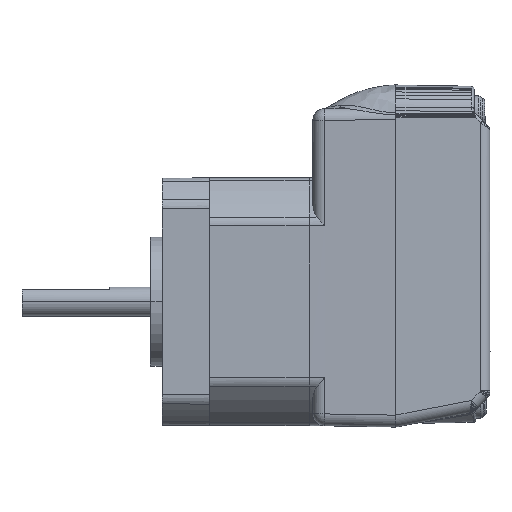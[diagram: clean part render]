
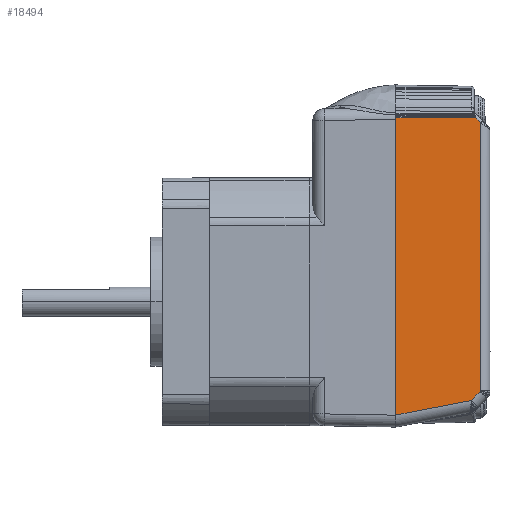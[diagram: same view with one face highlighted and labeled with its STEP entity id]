
A CAD part, left-side view. The second image highlights one B-rep face of the part: STEP entity #18494.
In plain terms, the highlighted planar face has unit normal (-1, -0.018, 0).
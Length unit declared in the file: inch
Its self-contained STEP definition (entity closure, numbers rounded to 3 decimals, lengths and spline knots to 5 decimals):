
#6873=VERTEX_POINT('',#21038);
#7577=VERTEX_POINT('NONE',#21823);
#8115=VERTEX_POINT('',#22415);
#8562=EDGE_CURVE('NONE',#14649,#9836,#22898,.T.);
#9836=VERTEX_POINT('',#24285);
#10113=VERTEX_POINT('NONE',#24581);
#10133=VERTEX_POINT('NONE',#24604);
#12311=EDGE_CURVE('NONE',#17334,#18828,#26992,.F.);
#12629=VERTEX_POINT('',#27339);
#12722=EDGE_CURVE('NONE',#10113,#7577,#27444,.F.);
#13508=EDGE_CURVE('NONE',#10113,#6873,#28296,.T.);
#14649=VERTEX_POINT('NONE',#29536);
#14736=EDGE_CURVE('',#6873,#18828,#29632,.F.);
#16072=EDGE_CURVE('NONE',#9836,#12629,#31092,.T.);
#17320=EDGE_CURVE('NONE',#10133,#7577,#32460,.T.);
#17334=VERTEX_POINT('NONE',#32476);
#17401=EDGE_CURVE('NONE',#12629,#8115,#32548,.T.);
#17627=EDGE_CURVE('NONE',#17334,#14649,#32796,.T.);
#18494=ADVANCED_FACE('MDrive17 Plus[9]',(#33740),#33741,.T.);
#18828=VERTEX_POINT('',#34111);
#19976=EDGE_CURVE('NONE',#8115,#10133,#35358,.T.);
#21038=CARTESIAN_POINT('',(-1.69475,0.9932,1.18117));
#21823=CARTESIAN_POINT('',(-1.68485,0.42614,1.14831));
#22415=CARTESIAN_POINT('',(-1.68486,0.42623,-0.65256));
#22898=B_SPLINE_CURVE_WITH_KNOTS('',3,(#45717,#45718,#45719,#45720),.UNSPECIFIED.,.F.,.F.,(4,4),(0.0,1.0),.UNSPECIFIED.);
#24285=CARTESIAN_POINT('',(-1.68487,0.42698,-0.65437));
#24581=CARTESIAN_POINT('',(-1.68542,0.45843,1.18117));
#24604=CARTESIAN_POINT('',(-1.68485,0.42614,-0.65159));
#26992=LINE('',#64287,#64288);
#27339=CARTESIAN_POINT('',(-1.68487,0.42651,-0.6535));
#27444=LINE('',#66215,#66216);
#28296=B_SPLINE_CURVE_WITH_KNOTS('',3,(#70966,#70967,#70968,#70969,#70970,#70971,#70972),.UNSPECIFIED.,.F.,.F.,(4,3,4),(0.0,0.99951,0.99975),.UNSPECIFIED.);
#29536=CARTESIAN_POINT('',(-1.68488,0.4276,-0.65511));
#29632=LINE('',#76239,#76240);
#31092=B_SPLINE_CURVE_WITH_KNOTS('',3,(#82328,#82329,#82330,#82331),.UNSPECIFIED.,.F.,.F.,(4,4),(0.0,1.0),.UNSPECIFIED.);
#32460=LINE('',#87602,#87603);
#32476=CARTESIAN_POINT('',(-1.68593,0.48772,-0.71523));
#32548=B_SPLINE_CURVE_WITH_KNOTS('',3,(#88005,#88006,#88007,#88008),.UNSPECIFIED.,.F.,.F.,(4,4),(0.0,1.0),.UNSPECIFIED.);
#32796=LINE('',#88803,#88804);
#33740=FACE_OUTER_BOUND('',#92441,.T.);
#33741=PLANE('',#92442);
#34111=CARTESIAN_POINT('',(-1.69475,0.9932,-0.81292));
#35358=B_SPLINE_CURVE_WITH_KNOTS('',3,(#98595,#98596,#98597,#98598),.UNSPECIFIED.,.F.,.F.,(4,4),(0.0,1.0),.UNSPECIFIED.);
#45717=CARTESIAN_POINT('',(-1.68487,0.4276,-0.65512));
#45718=CARTESIAN_POINT('',(-1.68486,0.42664,-0.65414));
#45719=CARTESIAN_POINT('',(-1.68485,0.42615,-0.65296));
#45720=CARTESIAN_POINT('',(-1.68485,0.42613,-0.65159));
#64287=CARTESIAN_POINT('',(-1.69505,1.01049,-0.81626));
#64288=VECTOR('',#106609,1.0);
#66215=CARTESIAN_POINT('',(-1.68485,0.42613,1.14829));
#66216=VECTOR('',#106974,1.0);
#70966=CARTESIAN_POINT('',(-1.68541,0.45844,1.18117));
#70967=CARTESIAN_POINT('',(-1.68852,0.63665,1.18117));
#70968=CARTESIAN_POINT('',(-1.69163,0.81486,1.18117));
#70969=CARTESIAN_POINT('',(-1.69474,0.99307,1.18117));
#70970=CARTESIAN_POINT('',(-1.69475,0.99312,1.18117));
#70971=CARTESIAN_POINT('',(-1.69475,0.99316,1.18117));
#70972=CARTESIAN_POINT('',(-1.69475,0.9932,1.18117));
#76239=CARTESIAN_POINT('',(-1.69475,0.9932,-0.57856));
#76240=VECTOR('',#108586,1.0);
#82328=CARTESIAN_POINT('',(-1.68487,0.4276,-0.65512));
#82329=CARTESIAN_POINT('',(-1.68486,0.42664,-0.65414));
#82330=CARTESIAN_POINT('',(-1.68485,0.42615,-0.65296));
#82331=CARTESIAN_POINT('',(-1.68485,0.42613,-0.65159));
#87602=CARTESIAN_POINT('',(-1.68485,0.42614,-0.65159));
#87603=VECTOR('',#110831,1.0);
#88005=CARTESIAN_POINT('',(-1.68487,0.4276,-0.65512));
#88006=CARTESIAN_POINT('',(-1.68486,0.42664,-0.65414));
#88007=CARTESIAN_POINT('',(-1.68485,0.42615,-0.65296));
#88008=CARTESIAN_POINT('',(-1.68485,0.42613,-0.65159));
#88803=CARTESIAN_POINT('',(-1.68593,0.48771,-0.71522));
#88804=VECTOR('',#111100,1.);
#92441=EDGE_LOOP('',(#111832,#111833,#111834,#111835,#111836,#111837,#111838,#111839,#111840,#111841));
#92442=AXIS2_PLACEMENT_3D('',#111842,#111843,#111844);
#98595=CARTESIAN_POINT('',(-1.68487,0.4276,-0.65512));
#98596=CARTESIAN_POINT('',(-1.68486,0.42664,-0.65414));
#98597=CARTESIAN_POINT('',(-1.68485,0.42615,-0.65296));
#98598=CARTESIAN_POINT('',(-1.68485,0.42613,-0.65159));
#106609=DIRECTION('',(0.017,-0.982,0.19));
#106974=DIRECTION('',(-0.012,0.701,0.713));
#108586=DIRECTION('',(0.,0.,1.0));
#110831=DIRECTION('',(0.,0.,1.0));
#111100=DIRECTION('',(0.012,-0.707,0.707));
#111832=ORIENTED_EDGE('',*,*,#14736,.T.);
#111833=ORIENTED_EDGE('',*,*,#12311,.F.);
#111834=ORIENTED_EDGE('',*,*,#17627,.T.);
#111835=ORIENTED_EDGE('',*,*,#8562,.T.);
#111836=ORIENTED_EDGE('',*,*,#16072,.T.);
#111837=ORIENTED_EDGE('',*,*,#17401,.T.);
#111838=ORIENTED_EDGE('',*,*,#19976,.T.);
#111839=ORIENTED_EDGE('',*,*,#17320,.T.);
#111840=ORIENTED_EDGE('',*,*,#12722,.F.);
#111841=ORIENTED_EDGE('',*,*,#13508,.T.);
#111842=CARTESIAN_POINT('',(-1.69475,0.99334,-0.81417));
#111843=DIRECTION('',(-1.,-0.017,0.));
#111844=DIRECTION('',(-0.017,1.,0.));
